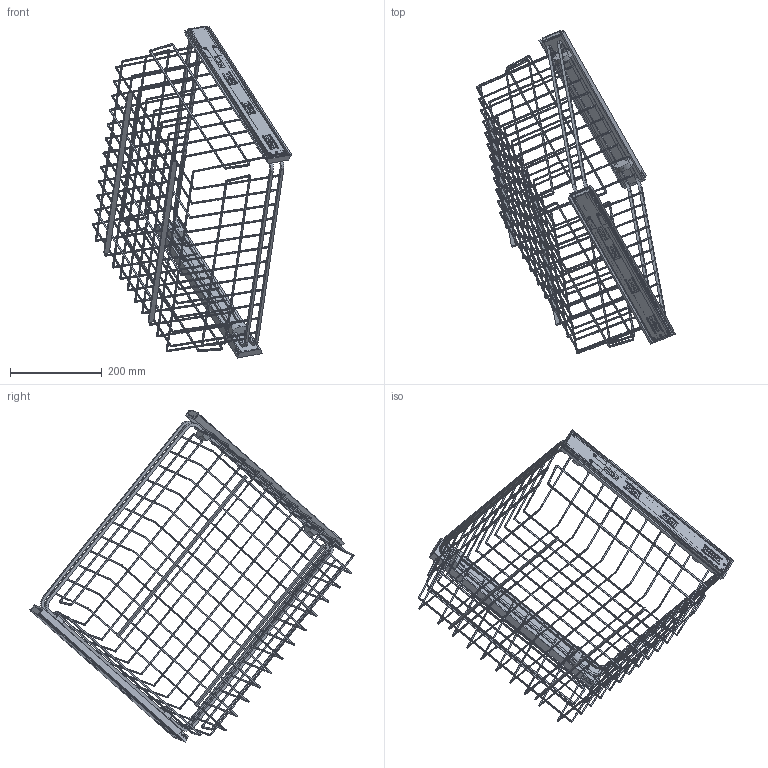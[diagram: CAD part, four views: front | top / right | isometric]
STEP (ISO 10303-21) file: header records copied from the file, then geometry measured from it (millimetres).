
FILE_DESCRIPTION(/* description */ (''),/* implementation_level */ '2;1');
FILE_NAME(/* name */ 'D:\$Workingspace\Designs\Meblowka\uproszczenia\garderoba smart\W-WKO…-VE.stp',/* time_stamp */ '2019-01-02T08:55:04+01:00',/* author */ ('tomaszw'),/* organization */ (''),/* preprocessor_version */ 'ST-DEVELOPER v17',/* originating_system */ 'Autodesk Inventor 2019',/* authorisation */ '');
FILE_SCHEMA (('AUTOMOTIVE_DESIGN { 1 0 10303 214 3 1 1 }'));
Length unit declared in the file: millimetre
Products named in the file (20): złożenie z koszem 11_2017; GTV_D_01; drut dół; drut 2,4 po długości; wzmocnienie 2,8 długości; wzmocnienie 2,8 długości_1; wzmocnienie dołu 3x12; drut 2,4 po długości_1; drut 2,4 po długości2; drut 2,4 po długości4; PPD_2; DD_3_01; MD_1_02; PK-L-H45-450; PK-L-H45_1-450; PK-L-H45_2-450; PK-L-H45_3-450; PK-L-H45_4; PK-L-H45_5; SM 4x16
Assembly tree (56 placements, depth 3):
  złożenie z koszem 11_2017
    PPD_2  x2
    DD_3_01  x4
    MD_1_02  x4
    GTV_D_01
      drut dół  x2
      drut 2,4 po długości  x12
      wzmocnienie 2,8 długości_1  x2
      wzmocnienie 2,8 długości  x2
      wzmocnienie dołu 3x12  x2
      drut 2,4 po długości_1  x2
      drut 2,4 po długości2
      drut 2,4 po długości4  x7
    PK-L-H45-450
      PK-L-H45_1-450  x2
      PK-L-H45_2-450  x2
      PK-L-H45_3-450  x2
      PK-L-H45_4  x2
      PK-L-H45_5  x2
    SM 4x16  x4
Bounding box: 433.44 x 704.71 x 722.08 mm (x, y, z)
Volume: 729603.6 mm3; surface area: 836032.8 mm2
Topology: 56 solids, 56 shells, 2194 faces, 6050 edges, 4040 vertices
Faces by surface type: plane 1578, cylinder 404, bspline 172, cone 40
Full cylindrical faces by diameter (mm): 4 x4, 4.2 x4, 4.3 x6, 4.5 x14, 6.2 x4, 7.2 x4, 8 x4, 8.3 x2
Entity records: 26846 total; most frequent: CARTESIAN_POINT 5462, ORIENTED_EDGE 4376, DIRECTION 4069, EDGE_CURVE 2188, LINE 1671, VECTOR 1671, VERTEX_POINT 1458, AXIS2_PLACEMENT_3D 1199
